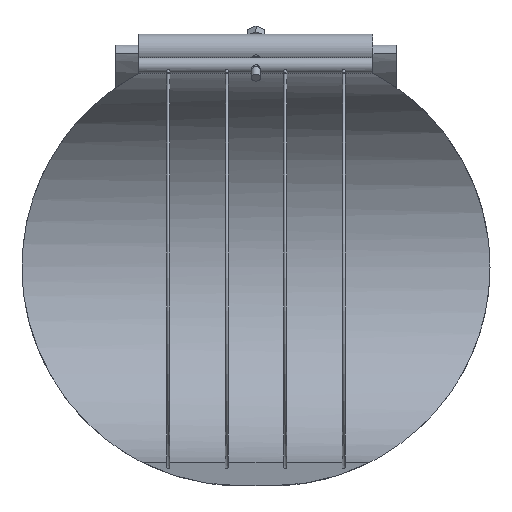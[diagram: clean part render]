
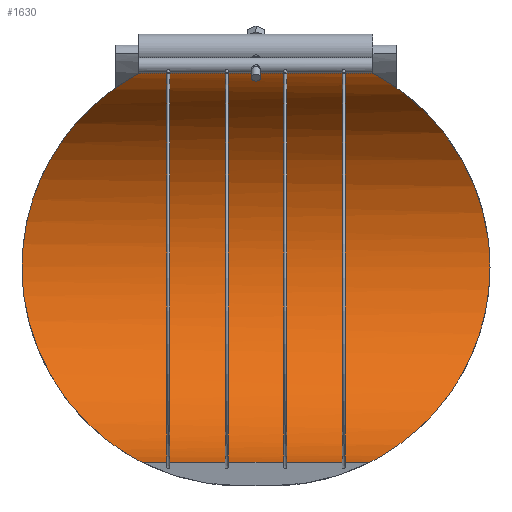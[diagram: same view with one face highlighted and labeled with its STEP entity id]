
A CAD part, front view. The second image highlights one B-rep face of the part: STEP entity #1630.
In plain terms, the highlighted cylindrical face has radius 125 mm (diameter 250 mm), a partial arc.
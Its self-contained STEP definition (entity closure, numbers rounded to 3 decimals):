
#159=FACE_OUTER_BOUND('',#257,.T.);
#257=EDGE_LOOP('',(#1371,#1372,#1373,#1374,#1375,#1376,#1377,#1378,#1379,
#1380));
#344=B_SPLINE_CURVE_WITH_KNOTS('',3,(#3395,#3396,#3397,#3398,#3399,#3400,
#3401,#3402,#3403,#3404,#3405,#3406,#3407,#3408,#3409,#3410,#3411,#3412,
#3413,#3414),.UNSPECIFIED.,.F.,.F.,(4,2,2,2,2,2,2,2,2,4),(44.482,
44.931,46.302,47.673,50.414,53.156,
55.688,58.22,60.752,63.283),
 .UNSPECIFIED.);
#345=B_SPLINE_CURVE_WITH_KNOTS('',3,(#3415,#3416,#3417,#3418,#3419,#3420,
#3421,#3422,#3423,#3424,#3425,#3426,#3427,#3428,#3429,#3430,#3431,#3432,
#3433,#3434),.UNSPECIFIED.,.F.,.F.,(4,2,2,2,2,2,2,2,2,4),(63.283,
65.815,68.347,70.879,73.411,76.153,
78.894,80.265,81.636,82.085),
 .UNSPECIFIED.);
#350=B_SPLINE_CURVE_WITH_KNOTS('',3,(#3546,#3547,#3548,#3549,#3550,#3551,
#3552,#3553,#3554,#3555,#3556,#3557,#3558,#3559,#3560,#3561,#3562,#3563,
#3564,#3565),.UNSPECIFIED.,.F.,.F.,(4,2,2,2,2,2,2,2,2,4),(2.293,
2.742,4.113,5.484,8.225,10.967,
13.499,16.031,18.563,21.094),
 .UNSPECIFIED.);
#351=B_SPLINE_CURVE_WITH_KNOTS('',3,(#3567,#3568,#3569,#3570,#3571,#3572,
#3573,#3574,#3575,#3576,#3577,#3578,#3579,#3580,#3581,#3582,#3583,#3584,
#3585,#3586),.UNSPECIFIED.,.F.,.F.,(4,2,2,2,2,2,2,2,2,4),(21.094,
23.626,26.158,28.69,31.222,33.964,
36.705,38.076,39.447,39.896),
 .UNSPECIFIED.);
#477=LINE('',#2670,#554);
#478=LINE('',#2673,#555);
#479=LINE('',#2676,#556);
#480=LINE('',#2678,#557);
#481=LINE('',#2679,#558);
#529=LINE('',#3628,#606);
#554=VECTOR('',#1931,10.);
#555=VECTOR('',#1934,10.);
#556=VECTOR('',#1937,10.);
#557=VECTOR('',#1940,10.);
#558=VECTOR('',#1941,10.);
#606=VECTOR('',#2193,10.);
#649=VERTEX_POINT('',#2658);
#651=VERTEX_POINT('',#2663);
#653=VERTEX_POINT('',#2667);
#654=VERTEX_POINT('',#2669);
#655=VERTEX_POINT('',#2672);
#656=VERTEX_POINT('',#2675);
#732=VERTEX_POINT('',#3392);
#733=VERTEX_POINT('',#3394);
#738=VERTEX_POINT('',#3545);
#739=VERTEX_POINT('',#3566);
#829=EDGE_CURVE('',#654,#653,#477,.T.);
#831=EDGE_CURVE('',#655,#654,#478,.T.);
#833=EDGE_CURVE('',#656,#655,#479,.T.);
#835=EDGE_CURVE('',#649,#656,#480,.T.);
#836=EDGE_CURVE('',#651,#649,#481,.T.);
#960=EDGE_CURVE('',#732,#733,#344,.T.);
#961=EDGE_CURVE('',#733,#653,#345,.T.);
#966=EDGE_CURVE('',#651,#738,#350,.T.);
#967=EDGE_CURVE('',#738,#739,#351,.T.);
#971=EDGE_CURVE('',#732,#739,#529,.T.);
#1371=ORIENTED_EDGE('',*,*,#966,.F.);
#1372=ORIENTED_EDGE('',*,*,#836,.T.);
#1373=ORIENTED_EDGE('',*,*,#835,.T.);
#1374=ORIENTED_EDGE('',*,*,#833,.T.);
#1375=ORIENTED_EDGE('',*,*,#831,.T.);
#1376=ORIENTED_EDGE('',*,*,#829,.T.);
#1377=ORIENTED_EDGE('',*,*,#961,.F.);
#1378=ORIENTED_EDGE('',*,*,#960,.F.);
#1379=ORIENTED_EDGE('',*,*,#971,.T.);
#1380=ORIENTED_EDGE('',*,*,#967,.F.);
#1557=CYLINDRICAL_SURFACE('',#1802,125.);
#1630=ADVANCED_FACE('',(#159),#1557,.F.);
#1802=AXIS2_PLACEMENT_3D('',#3627,#2191,#2192);
#1931=DIRECTION('',(1.,0.,0.));
#1934=DIRECTION('',(1.,0.,0.));
#1937=DIRECTION('',(1.,0.,0.));
#1940=DIRECTION('',(1.,0.,0.));
#1941=DIRECTION('',(1.,0.,0.));
#2191=DIRECTION('center_axis',(1.,0.,0.));
#2192=DIRECTION('ref_axis',(0.,1.,0.));
#2193=DIRECTION('',(-1.,0.,0.));
#2658=CARTESIAN_POINT('',(-55.313,21.706,-123.101));
#2663=CARTESIAN_POINT('',(-71.717,21.706,-123.101));
#2667=CARTESIAN_POINT('',(71.717,21.706,-123.101));
#2669=CARTESIAN_POINT('',(55.313,21.706,-123.101));
#2670=CARTESIAN_POINT('',(0.,21.706,-123.101));
#2672=CARTESIAN_POINT('',(18.438,21.706,-123.101));
#2673=CARTESIAN_POINT('',(0.,21.706,-123.101));
#2675=CARTESIAN_POINT('',(-18.438,21.706,-123.101));
#2676=CARTESIAN_POINT('',(0.,21.706,-123.101));
#2678=CARTESIAN_POINT('',(0.,21.706,-123.101));
#2679=CARTESIAN_POINT('',(0.,21.706,-123.101));
#3392=CARTESIAN_POINT('',(71.717,21.706,123.101));
#3394=CARTESIAN_POINT('',(147.5,125.,0.));
#3395=CARTESIAN_POINT('Ctrl Pts',(71.717,21.706,123.101));
#3396=CARTESIAN_POINT('Ctrl Pts',(72.187,23.051,122.864));
#3397=CARTESIAN_POINT('Ctrl Pts',(72.691,24.385,122.606));
#3398=CARTESIAN_POINT('Ctrl Pts',(74.861,29.752,121.478));
#3399=CARTESIAN_POINT('Ctrl Pts',(76.776,33.697,120.44));
#3400=CARTESIAN_POINT('Ctrl Pts',(80.967,41.424,118.006));
#3401=CARTESIAN_POINT('Ctrl Pts',(83.244,45.205,116.609));
#3402=CARTESIAN_POINT('Ctrl Pts',(90.392,56.314,111.886));
#3403=CARTESIAN_POINT('Ctrl Pts',(95.559,63.39,108.031));
#3404=CARTESIAN_POINT('Ctrl Pts',(105.757,76.648,99.066));
#3405=CARTESIAN_POINT('Ctrl Pts',(110.792,82.824,93.953));
#3406=CARTESIAN_POINT('Ctrl Pts',(119.732,93.527,83.25));
#3407=CARTESIAN_POINT('Ctrl Pts',(123.999,98.498,77.369));
#3408=CARTESIAN_POINT('Ctrl Pts',(131.823,107.483,64.305));
#3409=CARTESIAN_POINT('Ctrl Pts',(135.378,111.497,57.121));
#3410=CARTESIAN_POINT('Ctrl Pts',(141.259,118.09,41.822));
#3411=CARTESIAN_POINT('Ctrl Pts',(143.59,120.676,33.688));
#3412=CARTESIAN_POINT('Ctrl Pts',(146.712,124.132,16.997));
#3413=CARTESIAN_POINT('Ctrl Pts',(147.5,125.,8.439));
#3414=CARTESIAN_POINT('Ctrl Pts',(147.5,125.,0.));
#3415=CARTESIAN_POINT('Ctrl Pts',(147.5,125.,0.));
#3416=CARTESIAN_POINT('Ctrl Pts',(147.5,125.,-8.439));
#3417=CARTESIAN_POINT('Ctrl Pts',(146.712,124.132,-16.997));
#3418=CARTESIAN_POINT('Ctrl Pts',(143.59,120.676,-33.688));
#3419=CARTESIAN_POINT('Ctrl Pts',(141.259,118.09,-41.822));
#3420=CARTESIAN_POINT('Ctrl Pts',(135.378,111.497,-57.121));
#3421=CARTESIAN_POINT('Ctrl Pts',(131.823,107.483,-64.305));
#3422=CARTESIAN_POINT('Ctrl Pts',(123.999,98.498,-77.369));
#3423=CARTESIAN_POINT('Ctrl Pts',(119.732,93.527,-83.25));
#3424=CARTESIAN_POINT('Ctrl Pts',(110.792,82.824,-93.953));
#3425=CARTESIAN_POINT('Ctrl Pts',(105.757,76.648,-99.066));
#3426=CARTESIAN_POINT('Ctrl Pts',(95.559,63.39,-108.031));
#3427=CARTESIAN_POINT('Ctrl Pts',(90.392,56.314,-111.886));
#3428=CARTESIAN_POINT('Ctrl Pts',(83.244,45.205,-116.609));
#3429=CARTESIAN_POINT('Ctrl Pts',(80.967,41.424,-118.006));
#3430=CARTESIAN_POINT('Ctrl Pts',(76.776,33.697,-120.44));
#3431=CARTESIAN_POINT('Ctrl Pts',(74.861,29.752,-121.478));
#3432=CARTESIAN_POINT('Ctrl Pts',(72.691,24.385,-122.606));
#3433=CARTESIAN_POINT('Ctrl Pts',(72.187,23.051,-122.864));
#3434=CARTESIAN_POINT('Ctrl Pts',(71.717,21.706,-123.101));
#3545=CARTESIAN_POINT('',(-147.5,125.,0.));
#3546=CARTESIAN_POINT('Ctrl Pts',(-71.717,21.706,-123.101));
#3547=CARTESIAN_POINT('Ctrl Pts',(-72.187,23.051,-122.864));
#3548=CARTESIAN_POINT('Ctrl Pts',(-72.691,24.385,-122.606));
#3549=CARTESIAN_POINT('Ctrl Pts',(-74.861,29.752,-121.478));
#3550=CARTESIAN_POINT('Ctrl Pts',(-76.776,33.697,-120.44));
#3551=CARTESIAN_POINT('Ctrl Pts',(-80.967,41.424,-118.006));
#3552=CARTESIAN_POINT('Ctrl Pts',(-83.244,45.205,-116.609));
#3553=CARTESIAN_POINT('Ctrl Pts',(-90.392,56.314,-111.886));
#3554=CARTESIAN_POINT('Ctrl Pts',(-95.559,63.39,-108.031));
#3555=CARTESIAN_POINT('Ctrl Pts',(-105.757,76.648,-99.066));
#3556=CARTESIAN_POINT('Ctrl Pts',(-110.792,82.824,-93.953));
#3557=CARTESIAN_POINT('Ctrl Pts',(-119.732,93.527,-83.25));
#3558=CARTESIAN_POINT('Ctrl Pts',(-123.999,98.498,-77.369));
#3559=CARTESIAN_POINT('Ctrl Pts',(-131.823,107.483,-64.305));
#3560=CARTESIAN_POINT('Ctrl Pts',(-135.378,111.497,-57.121));
#3561=CARTESIAN_POINT('Ctrl Pts',(-141.259,118.09,-41.822));
#3562=CARTESIAN_POINT('Ctrl Pts',(-143.59,120.676,-33.688));
#3563=CARTESIAN_POINT('Ctrl Pts',(-146.712,124.132,-16.997));
#3564=CARTESIAN_POINT('Ctrl Pts',(-147.5,125.,-8.439));
#3565=CARTESIAN_POINT('Ctrl Pts',(-147.5,125.,0.));
#3566=CARTESIAN_POINT('',(-71.717,21.706,123.101));
#3567=CARTESIAN_POINT('Ctrl Pts',(-147.5,125.,0.));
#3568=CARTESIAN_POINT('Ctrl Pts',(-147.5,125.,8.439));
#3569=CARTESIAN_POINT('Ctrl Pts',(-146.712,124.132,16.997));
#3570=CARTESIAN_POINT('Ctrl Pts',(-143.59,120.676,33.688));
#3571=CARTESIAN_POINT('Ctrl Pts',(-141.259,118.09,41.822));
#3572=CARTESIAN_POINT('Ctrl Pts',(-135.378,111.497,57.121));
#3573=CARTESIAN_POINT('Ctrl Pts',(-131.823,107.483,64.305));
#3574=CARTESIAN_POINT('Ctrl Pts',(-123.999,98.498,77.369));
#3575=CARTESIAN_POINT('Ctrl Pts',(-119.732,93.527,83.25));
#3576=CARTESIAN_POINT('Ctrl Pts',(-110.792,82.824,93.953));
#3577=CARTESIAN_POINT('Ctrl Pts',(-105.757,76.648,99.066));
#3578=CARTESIAN_POINT('Ctrl Pts',(-95.559,63.39,108.031));
#3579=CARTESIAN_POINT('Ctrl Pts',(-90.392,56.314,111.886));
#3580=CARTESIAN_POINT('Ctrl Pts',(-83.244,45.205,116.609));
#3581=CARTESIAN_POINT('Ctrl Pts',(-80.967,41.424,118.006));
#3582=CARTESIAN_POINT('Ctrl Pts',(-76.776,33.697,120.44));
#3583=CARTESIAN_POINT('Ctrl Pts',(-74.861,29.752,121.478));
#3584=CARTESIAN_POINT('Ctrl Pts',(-72.691,24.385,122.606));
#3585=CARTESIAN_POINT('Ctrl Pts',(-72.187,23.051,122.864));
#3586=CARTESIAN_POINT('Ctrl Pts',(-71.717,21.706,123.101));
#3627=CARTESIAN_POINT('Origin',(0.,0.,0.));
#3628=CARTESIAN_POINT('',(0.,21.706,123.101));
